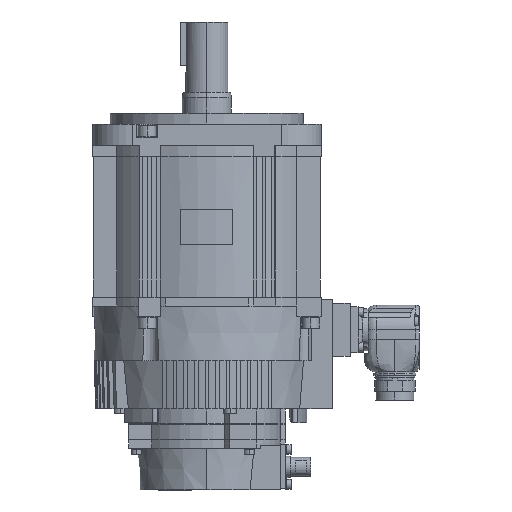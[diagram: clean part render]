
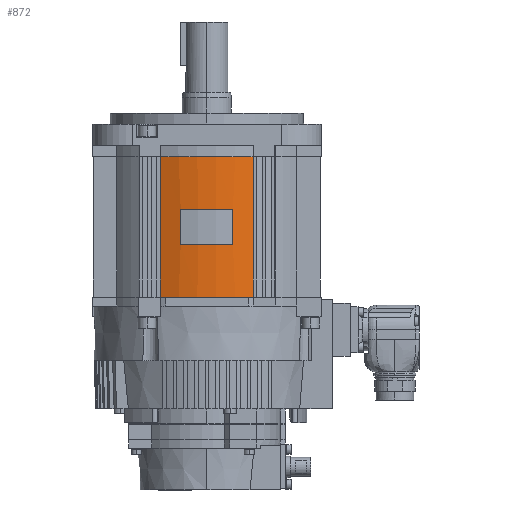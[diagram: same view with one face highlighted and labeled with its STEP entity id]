
A CAD part, left-side view. The second image highlights one B-rep face of the part: STEP entity #872.
In plain terms, the highlighted cylindrical face has radius 64.3 mm (diameter 128.6 mm), a partial arc.
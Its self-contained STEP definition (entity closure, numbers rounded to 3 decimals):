
#799 = EDGE_CURVE ( 'NONE', #880, #800, #24682, .T. ) ;
#800 = VERTEX_POINT ( 'NONE', #24678 ) ;
#801 = ORIENTED_EDGE ( 'NONE', *, *, #802, .F. ) ;
#802 = EDGE_CURVE ( 'NONE', #876, #800, #24677, .T. ) ;
#803 = EDGE_LOOP ( 'NONE', ( #857, #861, #864, #867 ) ) ;
#857 = ORIENTED_EDGE ( 'NONE', *, *, #858, .F. ) ;
#858 = EDGE_CURVE ( 'NONE', #859, #860, #24860, .T. ) ;
#859 = VERTEX_POINT ( 'NONE', #24855 ) ;
#860 = VERTEX_POINT ( 'NONE', #24854 ) ;
#861 = ORIENTED_EDGE ( 'NONE', *, *, #862, .T. ) ;
#862 = EDGE_CURVE ( 'NONE', #859, #863, #24853, .T. ) ;
#863 = VERTEX_POINT ( 'NONE', #24849 ) ;
#864 = ORIENTED_EDGE ( 'NONE', *, *, #865, .T. ) ;
#865 = EDGE_CURVE ( 'NONE', #863, #866, #24901, .T. ) ;
#866 = VERTEX_POINT ( 'NONE', #24896 ) ;
#867 = ORIENTED_EDGE ( 'NONE', *, *, #868, .F. ) ;
#868 = EDGE_CURVE ( 'NONE', #860, #866, #24894, .T. ) ;
#872 = ADVANCED_FACE ( 'NONE', ( #24922, #24921 ), #24904, .T. ) ;
#873 = EDGE_LOOP ( 'NONE', ( #874, #878, #881, #801 ) ) ;
#874 = ORIENTED_EDGE ( 'NONE', *, *, #875, .T. ) ;
#875 = EDGE_CURVE ( 'NONE', #876, #877, #24905, .T. ) ;
#876 = VERTEX_POINT ( 'NONE', #24956 ) ;
#877 = VERTEX_POINT ( 'NONE', #24955 ) ;
#878 = ORIENTED_EDGE ( 'NONE', *, *, #879, .T. ) ;
#879 = EDGE_CURVE ( 'NONE', #877, #880, #24953, .T. ) ;
#880 = VERTEX_POINT ( 'NONE', #24948 ) ;
#881 = ORIENTED_EDGE ( 'NONE', *, *, #799, .T. ) ;
#24673 = DIRECTION ( 'NONE',  ( -1., 0., 0. ) ) ;
#24674 = DIRECTION ( 'NONE',  ( 0., 0., -1. ) ) ;
#24675 = CARTESIAN_POINT ( 'NONE',  ( 0., 0., -48.5 ) ) ;
#24676 = AXIS2_PLACEMENT_3D ( 'NONE', #24675, #24674, #24673 ) ;
#24677 = CIRCLE ( 'NONE', #24676, 64.3 ) ;
#24678 = CARTESIAN_POINT ( 'NONE',  ( -62.564, 14.842, -48.5 ) ) ;
#24679 = DIRECTION ( 'NONE',  ( 0., 0., 1. ) ) ;
#24680 = VECTOR ( 'NONE', #24679, 1000. ) ;
#24681 = CARTESIAN_POINT ( 'NONE',  ( -62.564, 14.842, -200.368 ) ) ;
#24682 = LINE ( 'NONE', #24681, #24680 ) ;
#24849 = CARTESIAN_POINT ( 'NONE',  ( -58.677, -26.297, -18.6 ) ) ;
#24850 = DIRECTION ( 'NONE',  ( 0., 0., 1. ) ) ;
#24851 = VECTOR ( 'NONE', #24850, 1000. ) ;
#24852 = CARTESIAN_POINT ( 'NONE',  ( -58.677, -26.297, -116.906 ) ) ;
#24853 = LINE ( 'NONE', #24852, #24851 ) ;
#24854 = CARTESIAN_POINT ( 'NONE',  ( -58.677, 26.297, -98.4 ) ) ;
#24855 = CARTESIAN_POINT ( 'NONE',  ( -58.677, -26.297, -98.4 ) ) ;
#24856 = DIRECTION ( 'NONE',  ( -1., 0., 0. ) ) ;
#24857 = DIRECTION ( 'NONE',  ( 0., 0., -1. ) ) ;
#24858 = CARTESIAN_POINT ( 'NONE',  ( 0., 0., -98.4 ) ) ;
#24859 = AXIS2_PLACEMENT_3D ( 'NONE', #24858, #24857, #24856 ) ;
#24860 = CIRCLE ( 'NONE', #24859, 64.3 ) ;
#24891 = DIRECTION ( 'NONE',  ( 0., 0., 1. ) ) ;
#24892 = VECTOR ( 'NONE', #24891, 1000. ) ;
#24893 = CARTESIAN_POINT ( 'NONE',  ( -58.677, 26.297, -116.906 ) ) ;
#24894 = LINE ( 'NONE', #24893, #24892 ) ;
#24896 = CARTESIAN_POINT ( 'NONE',  ( -58.677, 26.297, -18.6 ) ) ;
#24897 = DIRECTION ( 'NONE',  ( 0., -1., 0. ) ) ;
#24898 = DIRECTION ( 'NONE',  ( 0., 0., -1. ) ) ;
#24899 = CARTESIAN_POINT ( 'NONE',  ( 0., 0., -18.6 ) ) ;
#24900 = AXIS2_PLACEMENT_3D ( 'NONE', #24899, #24898, #24897 ) ;
#24901 = CIRCLE ( 'NONE', #24900, 64.3 ) ;
#24902 = DIRECTION ( 'NONE',  ( 0., 0., 1. ) ) ;
#24903 = AXIS2_PLACEMENT_3D ( 'NONE', #24906, #24902, #24960 ) ;
#24904 = CYLINDRICAL_SURFACE ( 'NONE', #24903, 64.3 ) ;
#24905 = LINE ( 'NONE', #24959, #24958 ) ;
#24906 = CARTESIAN_POINT ( 'NONE',  ( 0., 0., -200.368 ) ) ;
#24921 = FACE_OUTER_BOUND ( 'NONE', #803, .T. ) ;
#24922 = FACE_BOUND ( 'NONE', #873, .T. ) ;
#24948 = CARTESIAN_POINT ( 'NONE',  ( -62.564, 14.842, -68.5 ) ) ;
#24949 = DIRECTION ( 'NONE',  ( -1., 0., 0. ) ) ;
#24950 = DIRECTION ( 'NONE',  ( 0., 0., -1. ) ) ;
#24951 = CARTESIAN_POINT ( 'NONE',  ( 0., 0., -68.5 ) ) ;
#24952 = AXIS2_PLACEMENT_3D ( 'NONE', #24951, #24950, #24949 ) ;
#24953 = CIRCLE ( 'NONE', #24952, 64.3 ) ;
#24955 = CARTESIAN_POINT ( 'NONE',  ( -62.564, -14.842, -68.5 ) ) ;
#24956 = CARTESIAN_POINT ( 'NONE',  ( -62.564, -14.842, -48.5 ) ) ;
#24957 = DIRECTION ( 'NONE',  ( 0., 0., -1. ) ) ;
#24958 = VECTOR ( 'NONE', #24957, 1000. ) ;
#24959 = CARTESIAN_POINT ( 'NONE',  ( -62.564, -14.842, -200.368 ) ) ;
#24960 = DIRECTION ( 'NONE',  ( 1., 0., 0. ) ) ;
